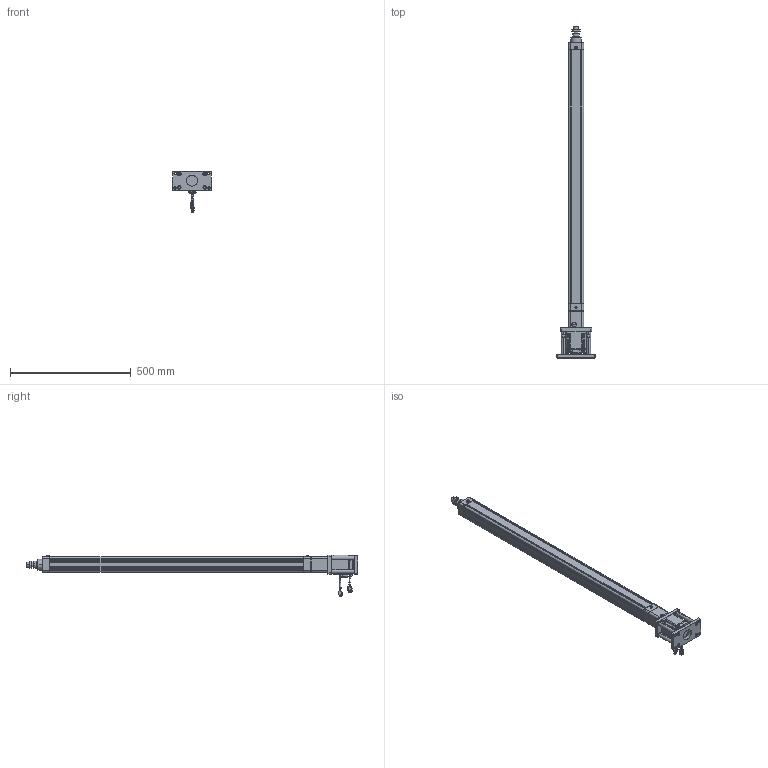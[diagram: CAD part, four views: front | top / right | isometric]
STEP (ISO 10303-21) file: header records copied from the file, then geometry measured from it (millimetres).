
FILE_DESCRIPTION((''),'2;1');
FILE_NAME('HE50-D-100-X1_ASM','2020-04-25T',('ASUS20200'),(''),'CREO PARAMETRIC BY PTC INC, 2014190','CREO PARAMETRIC BY PTC INC, 2014190','');
FILE_SCHEMA(('CONFIG_CONTROL_DESIGN'));
Products named in the file (28): HE50-D-P-001-X1; HE50-D-P-002-X1; HE50-D-P-003-X1; HE50-D-009-X1; HE50-D-010-X1; 6301ZZ; LGLM-M8-22; SKT-16; SLM-01; YZ-M6X1; _MHMF082L1A2; _CABLE_MOTOR_BOTTOM_05; _CABLE_MOTOR_TOP_05; _MOTOR_CONNECTOR_2; _CABLE_BRAKE_BOTTOM_05; _CABLE_BRAKE_TOP_05; _MHMF_CONNECTOR_9_PIN_A6; MHMF082L1A2M2_1_ASM; M6X16; JX6X6X20; JDB303820; HE50-FB-LG; F-HE50FB; M8X20; HE50-D-P-005-X1; HE50-D-P-004-X1; HE50-D-P-008-X1; HE50-D-100-X1_ASM
Assembly tree (47 placements, depth 3):
  HE50-D-100-X1_ASM
    HE50-D-P-001-X1
    HE50-D-P-002-X1
    HE50-D-P-003-X1
    HE50-D-009-X1
    HE50-D-010-X1
    6301ZZ
    LGLM-M8-22  x8
    SKT-16
    SLM-01
    YZ-M6X1
    MHMF082L1A2M2_1_ASM
      _MHMF082L1A2
      _CABLE_MOTOR_BOTTOM_05
      _CABLE_MOTOR_TOP_05
      _MOTOR_CONNECTOR_2
      _CABLE_BRAKE_BOTTOM_05
      _CABLE_BRAKE_TOP_05
      _MHMF_CONNECTOR_9_PIN_A6
    M6X16  x4
    JX6X6X20
    JDB303820
    HE50-FB-LG  x4
    F-HE50FB
    M8X20  x8
    HE50-D-P-005-X1
    HE50-D-P-004-X1
    HE50-D-P-008-X1
Bounding box: 160 x 1376.5 x 173.65 mm (x, y, z)
Volume: 3150528.2 mm3; surface area: 924187.9 mm2
Topology: 46 solids, 82 shells, 2950 faces, 7081 edges, 4381 vertices
Faces by surface type: plane 1213, cylinder 851, cone 705, torus 134, sphere 44, bspline 3
Entity records: 71674 total; most frequent: CARTESIAN_POINT 13407, DIRECTION 12809, ORIENTED_EDGE 11442, EDGE_CURVE 5771, AXIS2_PLACEMENT_3D 4812, VERTEX_POINT 3598, VECTOR 3185, LINE 3185
